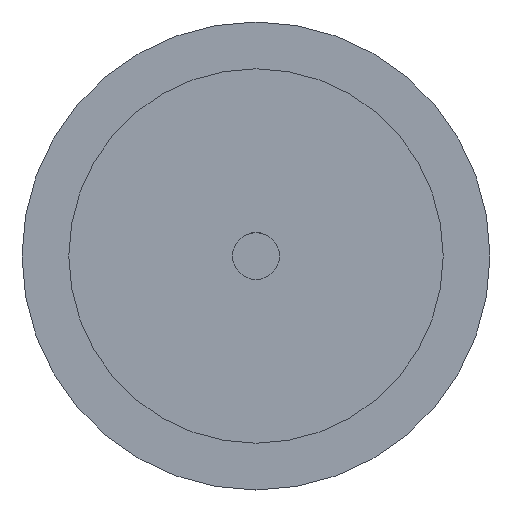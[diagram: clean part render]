
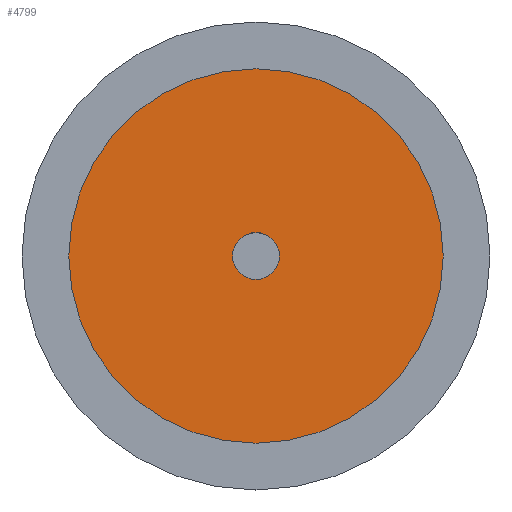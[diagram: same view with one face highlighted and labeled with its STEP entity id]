
A CAD part, left-side view. The second image highlights one B-rep face of the part: STEP entity #4799.
In plain terms, the highlighted planar face has unit normal (-1, 0, 0).
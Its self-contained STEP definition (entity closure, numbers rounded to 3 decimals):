
#2899 = DIRECTION ( 'NONE',  ( 0., 0., -1. ) ) ;
#2900 = DIRECTION ( 'NONE',  ( 1., 0., 0. ) ) ;
#2901 = CARTESIAN_POINT ( 'NONE',  ( -7., 0., 0. ) ) ;
#2902 = AXIS2_PLACEMENT_3D ( 'NONE', #2901, #2900, #2899 ) ;
#2903 = CIRCLE ( 'NONE', #2902, 12. ) ;
#2905 = DIRECTION ( 'NONE',  ( 0., 0., -1. ) ) ;
#2906 = DIRECTION ( 'NONE',  ( 1., 0., 0. ) ) ;
#2907 = CARTESIAN_POINT ( 'NONE',  ( -7., 0., 0. ) ) ;
#2908 = AXIS2_PLACEMENT_3D ( 'NONE', #2907, #2906, #2905 ) ;
#2909 = CIRCLE ( 'NONE', #2908, 12. ) ;
#2910 = CARTESIAN_POINT ( 'NONE',  ( -7., 0., 12. ) ) ;
#2911 = CARTESIAN_POINT ( 'NONE',  ( -7., 0., -12. ) ) ;
#2952 = DIRECTION ( 'NONE',  ( 0., 0., -1. ) ) ;
#2953 = DIRECTION ( 'NONE',  ( 1., 0., 0. ) ) ;
#2954 = CARTESIAN_POINT ( 'NONE',  ( -7., 0., 0. ) ) ;
#2955 = AXIS2_PLACEMENT_3D ( 'NONE', #2954, #2953, #2952 ) ;
#2956 = CIRCLE ( 'NONE', #2955, 1.5 ) ;
#2957 = DIRECTION ( 'NONE',  ( 0., 0., -1. ) ) ;
#2958 = DIRECTION ( 'NONE',  ( 1., 0., 0. ) ) ;
#2959 = CARTESIAN_POINT ( 'NONE',  ( -7., 0., 0. ) ) ;
#2960 = AXIS2_PLACEMENT_3D ( 'NONE', #2959, #2958, #2957 ) ;
#2961 = PLANE ( 'NONE',  #2960 ) ;
#2962 = FACE_BOUND ( 'NONE', #4800, .T. ) ;
#2963 = FACE_OUTER_BOUND ( 'NONE', #4806, .T. ) ;
#4136 = CARTESIAN_POINT ( 'NONE',  ( -7., 0., -1.5 ) ) ;
#4138 = CARTESIAN_POINT ( 'NONE',  ( -7., 0., 1.5 ) ) ;
#4175 = DIRECTION ( 'NONE',  ( 0., 0., -1. ) ) ;
#4176 = DIRECTION ( 'NONE',  ( 1., 0., 0. ) ) ;
#4177 = CARTESIAN_POINT ( 'NONE',  ( -7., 0., 0. ) ) ;
#4178 = AXIS2_PLACEMENT_3D ( 'NONE', #4177, #4176, #4175 ) ;
#4179 = CIRCLE ( 'NONE', #4178, 1.5 ) ;
#4789 = VERTEX_POINT ( 'NONE', #2911 ) ;
#4790 = VERTEX_POINT ( 'NONE', #2910 ) ;
#4792 = EDGE_CURVE ( 'NONE', #4789, #4790, #2909, .T. ) ;
#4795 = ORIENTED_EDGE ( 'NONE', *, *, #7249, .T. ) ;
#4796 = ORIENTED_EDGE ( 'NONE', *, *, #4797, .F. ) ;
#4797 = EDGE_CURVE ( 'NONE', #4790, #4789, #2903, .T. ) ;
#4798 = ORIENTED_EDGE ( 'NONE', *, *, #4801, .T. ) ;
#4799 = ADVANCED_FACE ( 'NONE', ( #2963, #2962 ), #2961, .F. ) ;
#4800 = EDGE_LOOP ( 'NONE', ( #4795, #4798 ) ) ;
#4801 = EDGE_CURVE ( 'NONE', #7242, #7240, #2956, .T. ) ;
#4804 = ORIENTED_EDGE ( 'NONE', *, *, #4792, .F. ) ;
#4806 = EDGE_LOOP ( 'NONE', ( #4804, #4796 ) ) ;
#7240 = VERTEX_POINT ( 'NONE', #4138 ) ;
#7242 = VERTEX_POINT ( 'NONE', #4136 ) ;
#7249 = EDGE_CURVE ( 'NONE', #7240, #7242, #4179, .T. ) ;
